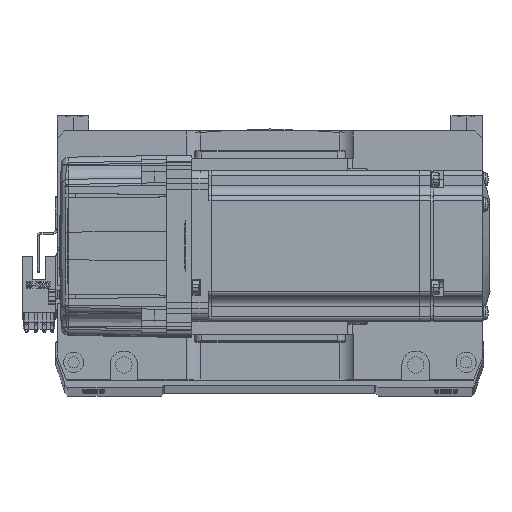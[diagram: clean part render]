
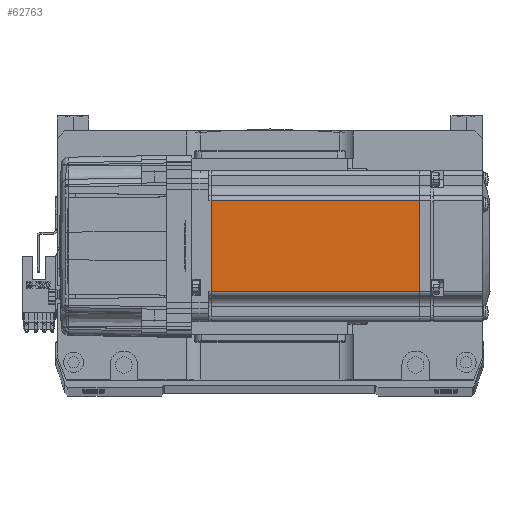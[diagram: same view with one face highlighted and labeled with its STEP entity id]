
A CAD part, top view. The second image highlights one B-rep face of the part: STEP entity #62763.
In plain terms, the highlighted planar face has unit normal (0, 0, 1) as drawn and (0, -1, 0) by its records, which use the part's own axes.
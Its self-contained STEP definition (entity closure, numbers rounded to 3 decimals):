
#1498 = CARTESIAN_POINT ( 'NONE',  ( -7.75, -30., -18. ) ) ;
#1873 = LINE ( 'NONE', #59740, #51092 ) ;
#2338 = VERTEX_POINT ( 'NONE', #32456 ) ;
#5065 = CARTESIAN_POINT ( 'NONE',  ( -6.5, -30., -18. ) ) ;
#6828 = DIRECTION ( 'NONE',  ( 0., 0., 1. ) ) ;
#7020 = ORIENTED_EDGE ( 'NONE', *, *, #21410, .T. ) ;
#7639 = DIRECTION ( 'NONE',  ( -1., 0., 0. ) ) ;
#8236 = VERTEX_POINT ( 'NONE', #1498 ) ;
#10028 = DIRECTION ( 'NONE',  ( 0., -1., 0. ) ) ;
#11918 = EDGE_CURVE ( 'NONE', #2338, #31507, #1873, .T. ) ;
#19452 = FACE_OUTER_BOUND ( 'NONE', #50584, .T. ) ;
#20836 = ORIENTED_EDGE ( 'NONE', *, *, #52776, .T. ) ;
#21410 = EDGE_CURVE ( 'NONE', #27791, #8236, #62305, .T. ) ;
#24933 = PLANE ( 'NONE',  #27220 ) ;
#27220 = AXIS2_PLACEMENT_3D ( 'NONE', #60627, #10028, #45314 ) ;
#27791 = VERTEX_POINT ( 'NONE', #64461 ) ;
#30387 = CARTESIAN_POINT ( 'NONE',  ( -90.45, -30., -25. ) ) ;
#31507 = VERTEX_POINT ( 'NONE', #62695 ) ;
#32456 = CARTESIAN_POINT ( 'NONE',  ( -7.75, -30., 18. ) ) ;
#35328 = LINE ( 'NONE', #42540, #66888 ) ;
#38851 = VECTOR ( 'NONE', #56343, 1000. ) ;
#40460 = VECTOR ( 'NONE', #62430, 1000. ) ;
#42540 = CARTESIAN_POINT ( 'NONE',  ( -7.75, -30., -25. ) ) ;
#44550 = ORIENTED_EDGE ( 'NONE', *, *, #11918, .T. ) ;
#45314 = DIRECTION ( 'NONE',  ( 0., 0., -1. ) ) ;
#50584 = EDGE_LOOP ( 'NONE', ( #51437, #44550, #20836, #7020 ) ) ;
#51092 = VECTOR ( 'NONE', #7639, 1000. ) ;
#51437 = ORIENTED_EDGE ( 'NONE', *, *, #65092, .T. ) ;
#52555 = LINE ( 'NONE', #30387, #38851 ) ;
#52776 = EDGE_CURVE ( 'NONE', #31507, #27791, #52555, .T. ) ;
#56343 = DIRECTION ( 'NONE',  ( 0., 0., -1. ) ) ;
#59740 = CARTESIAN_POINT ( 'NONE',  ( -6.5, -30., 18. ) ) ;
#60627 = CARTESIAN_POINT ( 'NONE',  ( -6.5, -30., -25. ) ) ;
#62305 = LINE ( 'NONE', #5065, #40460 ) ;
#62430 = DIRECTION ( 'NONE',  ( 1., 0., 0. ) ) ;
#62695 = CARTESIAN_POINT ( 'NONE',  ( -90.45, -30., 18. ) ) ;
#62763 = ADVANCED_FACE ( 'NONE', ( #19452 ), #24933, .T. ) ;
#64461 = CARTESIAN_POINT ( 'NONE',  ( -90.45, -30., -18. ) ) ;
#65092 = EDGE_CURVE ( 'NONE', #8236, #2338, #35328, .T. ) ;
#66888 = VECTOR ( 'NONE', #6828, 1000. ) ;
